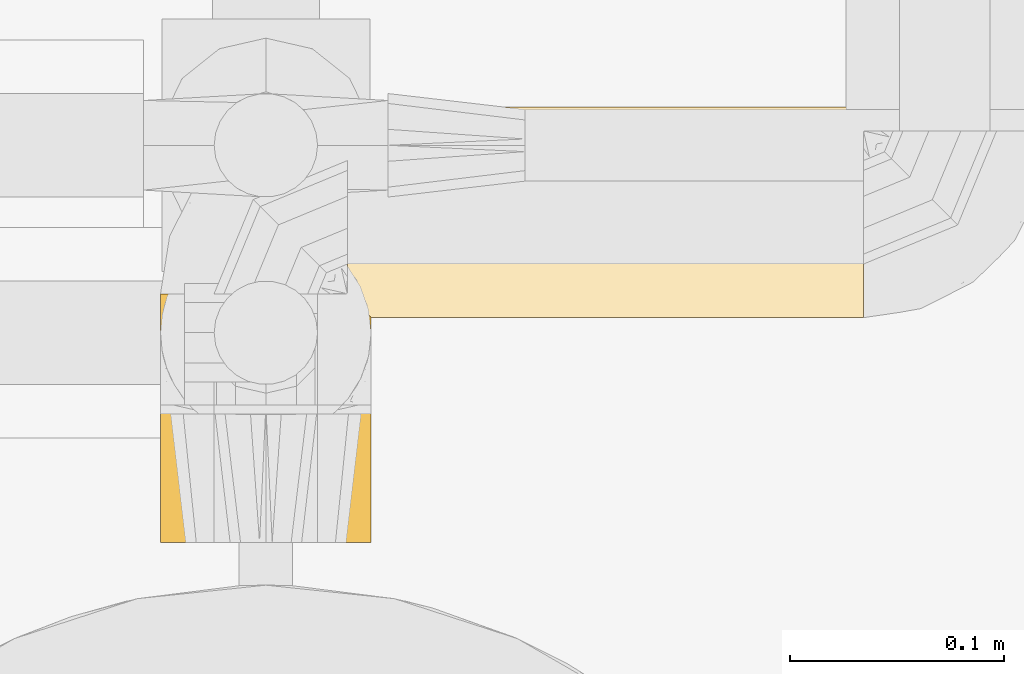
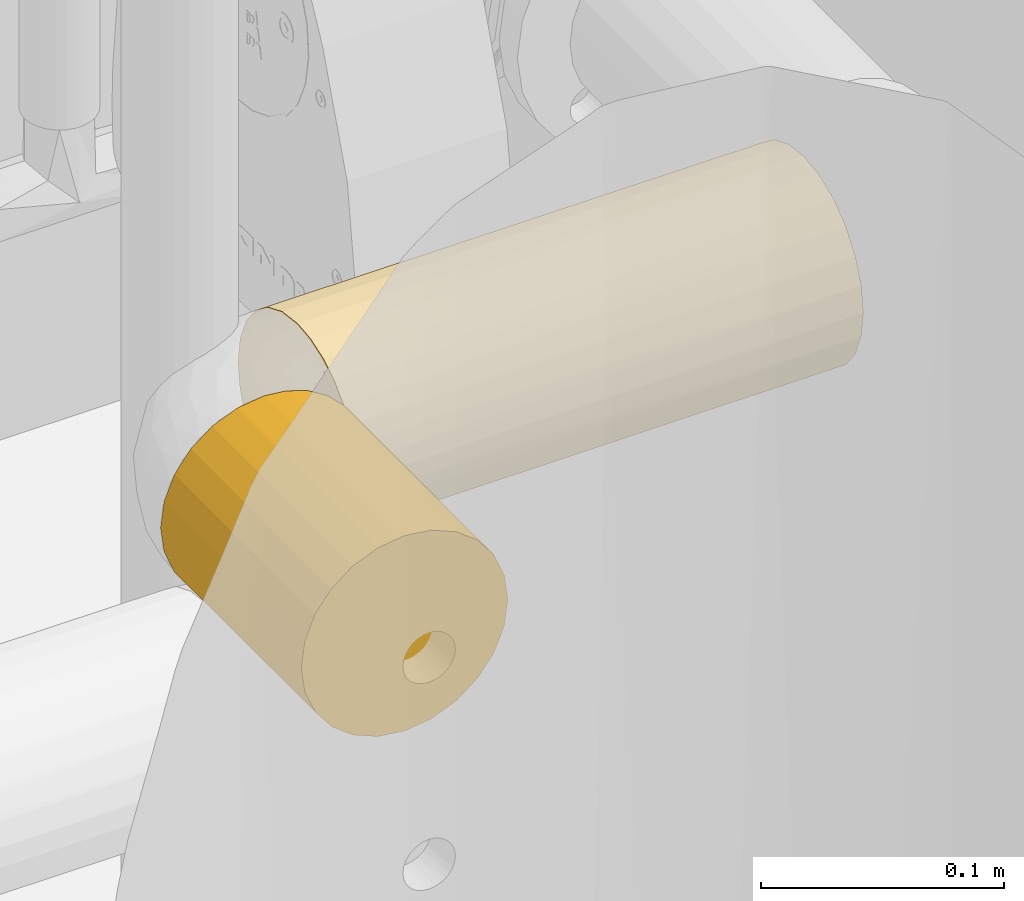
# One storey, part 41 of 94: 2 coverings.
"""IFC2X3 building model written with IfcOpenShell, lengths in millimetres."""

from ifc_helpers import new_model, entity, si_unit, converted_unit, derived_unit, direction, frame, origin, place, context, subcontext, project, spatial, faceted_brep, material, element, save


model = new_model("IFC2X3")

# Units and contexts
model_context = context("Model", 3, precision=0.01, world=origin(), true_north=direction((6.123031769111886e-17, 1.0)))
body_context = subcontext(model_context, "Body", "Model", "MODEL_VIEW")
ifc_project = project(units=[si_unit("LENGTHUNIT", "METRE", prefix="MILLI"), si_unit("AREAUNIT", "SQUARE_METRE"), si_unit("VOLUMEUNIT", "CUBIC_METRE"), converted_unit("PLANEANGLEUNIT", "DEGREE", entity("IfcRatioMeasure", 0.017453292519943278), si_unit("PLANEANGLEUNIT", "RADIAN"), dimensions=[0, 0, 0, 0, 0, 0, 0]), si_unit("MASSUNIT", "GRAM", prefix="KILO"), derived_unit("MASSDENSITYUNIT", [(si_unit("MASSUNIT", "GRAM", prefix="KILO"), 1), (si_unit("LENGTHUNIT", "METRE"), -3)]), derived_unit("IONCONCENTRATIONUNIT", [(si_unit("MASSUNIT", "GRAM", prefix="KILO"), 1), (si_unit("LENGTHUNIT", "METRE"), -3)]), derived_unit("MOMENTOFINERTIAUNIT", [(si_unit("LENGTHUNIT", "METRE"), 4)]), si_unit("TIMEUNIT", "SECOND"), si_unit("FREQUENCYUNIT", "HERTZ"), si_unit("THERMODYNAMICTEMPERATUREUNIT", "DEGREE_CELSIUS"), derived_unit("THERMALTRANSMITTANCEUNIT", [(si_unit("MASSUNIT", "GRAM", prefix="KILO"), 1), (si_unit("THERMODYNAMICTEMPERATUREUNIT", "KELVIN"), -1), (si_unit("TIMEUNIT", "SECOND"), -3)]), derived_unit("THERMALCONDUCTANCEUNIT", [(si_unit("MASSUNIT", "GRAM", prefix="KILO"), 1), (si_unit("THERMODYNAMICTEMPERATUREUNIT", "KELVIN"), -1), (si_unit("TIMEUNIT", "SECOND"), -3), (si_unit("LENGTHUNIT", "METRE"), 1)]), derived_unit("VOLUMETRICFLOWRATEUNIT", [(si_unit("LENGTHUNIT", "METRE"), 3), (si_unit("TIMEUNIT", "SECOND"), -1)]), derived_unit("MASSFLOWRATEUNIT", [(si_unit("MASSUNIT", "GRAM", prefix="KILO"), 1), (si_unit("TIMEUNIT", "SECOND"), -1)]), derived_unit("ROTATIONALFREQUENCYUNIT", [(si_unit("TIMEUNIT", "SECOND"), -1)]), si_unit("ELECTRICCURRENTUNIT", "AMPERE"), si_unit("ELECTRICVOLTAGEUNIT", "VOLT"), si_unit("POWERUNIT", "WATT"), si_unit("FORCEUNIT", "NEWTON", prefix="KILO"), si_unit("ILLUMINANCEUNIT", "LUX"), si_unit("LUMINOUSFLUXUNIT", "LUMEN"), si_unit("LUMINOUSINTENSITYUNIT", "CANDELA"), derived_unit("USERDEFINED", [(si_unit("MASSUNIT", "GRAM", prefix="KILO"), -1), (si_unit("LENGTHUNIT", "METRE"), -2), (si_unit("TIMEUNIT", "SECOND"), 3), (si_unit("LUMINOUSFLUXUNIT", "LUMEN"), 1)]), derived_unit("USERDEFINED", [(si_unit("MASSUNIT", "GRAM", prefix="KILO"), 1), (si_unit("TIMEUNIT", "SECOND"), -3), (si_unit("LENGTHUNIT", "METRE"), 3), (si_unit("ELECTRICCURRENTUNIT", "AMPERE"), -2)]), derived_unit("SOUNDPOWERUNIT", [(si_unit("MASSUNIT", "GRAM", prefix="KILO"), 1), (si_unit("TIMEUNIT", "SECOND"), -3), (si_unit("LENGTHUNIT", "METRE"), 2)]), derived_unit("SOUNDPRESSUREUNIT", [(si_unit("MASSUNIT", "GRAM", prefix="KILO"), 1), (si_unit("LENGTHUNIT", "METRE"), -1), (si_unit("TIMEUNIT", "SECOND"), -2)]), derived_unit("LINEARVELOCITYUNIT", [(si_unit("LENGTHUNIT", "METRE"), 1), (si_unit("TIMEUNIT", "SECOND"), -1)]), si_unit("PRESSUREUNIT", "PASCAL"), derived_unit("USERDEFINED", [(si_unit("MASSUNIT", "GRAM", prefix="KILO"), 1), (si_unit("LENGTHUNIT", "METRE"), -2), (si_unit("TIMEUNIT", "SECOND"), -2)]), derived_unit("LINEARFORCEUNIT", [(si_unit("MASSUNIT", "GRAM", prefix="KILO"), 1), (si_unit("TIMEUNIT", "SECOND"), -2)]), derived_unit("PLANARFORCEUNIT", [(si_unit("MASSUNIT", "GRAM", prefix="KILO"), 1), (si_unit("LENGTHUNIT", "METRE"), -1), (si_unit("TIMEUNIT", "SECOND"), -2)]), derived_unit("SPECIFICHEATCAPACITYUNIT", [(si_unit("THERMODYNAMICTEMPERATUREUNIT", "KELVIN"), -1), (si_unit("LENGTHUNIT", "METRE"), 2), (si_unit("TIMEUNIT", "SECOND"), -2)]), derived_unit("HEATINGVALUEUNIT", [(si_unit("LENGTHUNIT", "METRE"), 2), (si_unit("TIMEUNIT", "SECOND"), -2)]), derived_unit("VAPORPERMEABILITYUNIT", [(si_unit("LENGTHUNIT", "METRE"), -1), (si_unit("TIMEUNIT", "SECOND"), 1)]), derived_unit("DYNAMICVISCOSITYUNIT", [(si_unit("MASSUNIT", "GRAM", prefix="KILO"), 1), (si_unit("TIMEUNIT", "SECOND"), -1), (si_unit("LENGTHUNIT", "METRE"), -1)]), derived_unit("THERMALEXPANSIONCOEFFICIENTUNIT", [(si_unit("THERMODYNAMICTEMPERATUREUNIT", "KELVIN"), -1)]), derived_unit("MODULUSOFELASTICITYUNIT", [(si_unit("MASSUNIT", "GRAM", prefix="KILO"), 1), (si_unit("LENGTHUNIT", "METRE"), -1), (si_unit("TIMEUNIT", "SECOND"), -2)]), derived_unit("ISOTHERMALMOISTURECAPACITYUNIT", [(si_unit("LENGTHUNIT", "METRE"), 3), (si_unit("MASSUNIT", "GRAM", prefix="KILO"), -1)]), derived_unit("MOISTUREDIFFUSIVITYUNIT", [(si_unit("TIMEUNIT", "SECOND"), -1), (si_unit("LENGTHUNIT", "METRE"), 2)])], contexts=[model_context])

# Site, building, storey
site_placement = place(None, origin())
site = spatial("IfcSite", under=ifc_project, at=site_placement, Name="Default", CompositionType="ELEMENT")
building_placement = place(site_placement, origin())
building = spatial("IfcBuilding", under=site, at=building_placement, CompositionType="ELEMENT")
storey_placement = place(building_placement, origin())
storey = spatial("IfcBuildingStorey", under=building, at=storey_placement, Name="Niveau 0", CompositionType="ELEMENT", Elevation=0.0)

# Coverings
ifc_material = material(Name="Isolation - Laine minérale")
covering_1_placement = place(storey_placement, frame((-6247.833151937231, 9280.928553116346, 528.1439375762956)))
element("IfcCovering", 1, at=covering_1_placement, inside=storey, material=ifc_material, Name="Isolation des canalisations:Laine minérale", ObjectType="Isolation des canalisations:Laine minérale", PredefinedType="INSULATION", context=body_context, shape_type="Brep", body=[
    faceted_brep([(1.602675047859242, 29.695093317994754, 6.323821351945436), (1.6021236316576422, 20.47313283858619, 12.013962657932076), (1.6013862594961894, 12.723318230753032, 19.58672611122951), (1.5952722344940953, 12.727150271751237, 81.86849398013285), (1.5945229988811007, 20.47670737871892, 89.43937450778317), (1.5939573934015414, 29.69782329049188, 95.12801555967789), (1.5936029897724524, 39.941210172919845, 98.65710974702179), (1.593476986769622, 50.72526358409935, 99.85527176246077), (1.5936314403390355, 63.441043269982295, 98.18120761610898), (1.5941040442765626, 75.29026358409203, 93.27309988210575), (1.5948625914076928, 85.46541974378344, 85.46542799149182), (1.595855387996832, 93.27309167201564, 75.29027188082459), (1.5970147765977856, 98.18119942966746, 63.441051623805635), (1.5982617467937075, 99.85526358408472, 50.72527199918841), (1.5995113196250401, 98.18119942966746, 38.009492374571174), (1.6006783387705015, 93.27309167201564, 26.16027211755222), (1.6016832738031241, 85.46541974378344, 15.985116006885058), (1.602457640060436, 75.29026358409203, 8.177444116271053), (1.6029486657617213, 63.441043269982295, 3.2693363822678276), (1.6031228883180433, 50.72526358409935, 1.5952722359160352), (1.6030136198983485, 39.93974683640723, 2.7937635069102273), (242.4274744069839, 3.269514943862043, 38.03313375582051), (242.42863379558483, 8.177622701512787, 26.18391349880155), (242.42962659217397, 15.985294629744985, 16.008757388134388), (242.4303851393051, 26.160450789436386, 8.201085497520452), (242.43085774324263, 38.009671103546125, 3.292977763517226), (242.43101219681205, 50.72545078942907, 1.6189136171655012), (242.43083797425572, 63.44123047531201, 3.292977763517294), (242.43034694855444, 75.29045078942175, 8.20108549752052), (242.4295725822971, 85.46560694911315, 16.008757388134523), (242.4285676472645, 93.27327887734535, 26.183913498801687), (242.42740062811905, 98.18138663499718, 38.03313375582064), (242.4261510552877, 99.85545078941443, 50.74891338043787), (242.42490408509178, 98.18138663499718, 63.4646930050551), (242.42374469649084, 93.27327887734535, 75.31391326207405), (242.4227518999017, 85.46560694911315, 85.48906937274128), (242.42199335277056, 75.29045078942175, 93.29674126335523), (242.42152074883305, 63.44123047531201, 98.20484899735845), (242.42136629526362, 50.72545078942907, 99.87891314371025), (242.42154051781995, 38.009671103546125, 98.20484899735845), (242.42203154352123, 26.160450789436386, 93.29674126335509), (242.42280590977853, 15.985294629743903, 85.48906937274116), (242.42381084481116, 8.177622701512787, 75.31391326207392), (242.42497786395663, 3.2695149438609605, 63.46469300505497), (242.42622743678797, 1.5954507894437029, 50.748913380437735), (9.863350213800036, 4.4608534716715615, 34.192461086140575), (12.006945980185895, 2.3169682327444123, 42.33623665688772), (12.728337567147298, 1.5952722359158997, 50.726364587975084), (6.360527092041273, 7.9639426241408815, 26.534294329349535), (12.00607298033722, 2.3172263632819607, 59.1178400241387), (9.8611211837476, 4.461870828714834, 67.26255189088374), (6.35652137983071, 7.966175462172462, 74.92113064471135)], [[[0, 1, 2, 3, 4, 5, 6, 7, 8, 9, 10, 11, 12, 13, 14, 15, 16, 17, 18, 19, 20]], [[21, 22, 23, 24, 25, 26, 27, 28, 29, 30, 31, 32, 33, 34, 35, 36, 37, 38, 39, 40, 41, 42, 43, 44]], [[14, 13, 32, 31]], [[15, 14, 31, 30]], [[30, 29, 16, 15]], [[18, 17, 28, 27]], [[19, 18, 27, 26]], [[29, 28, 17, 16]], [[20, 26, 25]], [[0, 25, 24]], [[1, 24, 23]], [[19, 26, 20]], [[20, 25, 0]], [[24, 1, 0]], [[23, 2, 1]], [[45, 22, 21]], [[21, 44, 46]], [[47, 46, 44]], [[48, 2, 22]], [[46, 45, 21]], [[48, 22, 45]], [[22, 2, 23]], [[49, 47, 44]], [[49, 44, 43]], [[50, 43, 42]], [[50, 49, 43]], [[3, 51, 42]], [[50, 42, 51]], [[42, 41, 3]], [[4, 41, 40]], [[5, 40, 39]], [[6, 39, 38]], [[4, 40, 5]], [[5, 39, 6]], [[38, 7, 6]], [[41, 4, 3]], [[8, 7, 38, 37]], [[9, 8, 37, 36]], [[36, 35, 10, 9]], [[12, 11, 34, 33]], [[13, 12, 33, 32]], [[35, 34, 11, 10]], [[2, 48, 45, 46, 47, 49, 50, 51, 3]]]),
])
covering_2_placement = place(storey_placement, frame((-6334.960124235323, 9177.684423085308, 528.1437673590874)))
element("IfcCovering", 2, at=covering_2_placement, inside=storey, material=ifc_material, Name="Isolation des canalisations:Laine minérale", ObjectType="Isolation des canalisations:Laine minérale", PredefinedType="INSULATION", context=body_context, shape_type="Brep", body=[
    faceted_brep([(38.009884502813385, 0.0, 3.2702967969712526), (50.7256641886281, 2.9113010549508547e-05, 1.5962326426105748), (63.441443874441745, 8.595382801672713e-05, 3.2702967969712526), (75.2906641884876, 0.0001666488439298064, 8.17840455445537), (85.46582034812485, 0.00026569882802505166, 15.986076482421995), (93.27349227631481, 0.00037635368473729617, 26.1612326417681), (98.1816000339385, 0.0004910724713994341, 38.010452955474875), (99.85566418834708, 0.0006020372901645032, 50.72623264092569), (98.18160003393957, 0.0007016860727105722, 63.44201232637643), (93.27349227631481, 0.0007832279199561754, 75.29123264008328), (85.46582034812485, 0.0008411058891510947, 85.46638879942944), (75.2906641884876, 0.0008713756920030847, 93.27406072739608), (63.441443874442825, 0.0008719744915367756, 98.18216848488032), (50.7256641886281, 0.000842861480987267, 99.856232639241), (38.009884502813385, 0.0007860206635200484, 98.18216848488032), (26.160664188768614, 0.0007053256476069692, 93.2740607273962), (15.985508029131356, 0.000606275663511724, 85.46638879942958), (8.17783610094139, 0.0004956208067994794, 75.29123264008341), (3.2697283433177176, 0.0003809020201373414, 63.442012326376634), (1.595664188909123, 0.0002699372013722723, 50.72623264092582), (3.2697283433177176, 0.00017028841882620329, 38.01045295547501), (8.17783610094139, 8.874657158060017e-05, 26.161232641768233), (15.985508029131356, 3.086860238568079e-05, 15.986076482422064), (26.160664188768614, 5.98799533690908e-07, 8.178404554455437), (38.00949254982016, 115.96895762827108, 3.2693363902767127), (26.16027223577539, 115.96895822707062, 8.177444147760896), (15.985116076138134, 115.96898849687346, 15.985116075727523), (8.177444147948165, 115.96904637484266, 26.16027223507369), (3.2693363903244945, 115.9691279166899, 38.00949254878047), (1.5952722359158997, 115.96922756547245, 50.725272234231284), (3.2693363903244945, 115.96933853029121, 63.44105191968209), (8.177444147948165, 115.96945324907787, 75.29027223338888), (15.985116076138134, 115.96956390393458, 85.46542839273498), (26.16027223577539, 115.96966295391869, 93.27310032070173), (38.00949254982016, 115.9697436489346, 98.18120807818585), (50.72527223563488, 115.96980048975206, 99.85527223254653), (61.509462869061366, 115.96982701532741, 98.65707933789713), (71.75296852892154, 115.96983240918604, 95.12789477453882), (80.97416364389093, 115.96981646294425, 89.43911302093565), (88.7237449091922, 115.96977995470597, 81.86805589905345), (88.72654267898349, 115.96926416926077, 19.58590254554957), (80.97677340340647, 115.96917526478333, 12.013470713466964), (71.7549616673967, 115.96909697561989, 6.323593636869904), (61.51053123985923, 115.9690331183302, 2.793705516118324), (50.72527223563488, 115.96898674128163, 1.5952722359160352), (93.48621973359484, 111.20935235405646, 26.53317150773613), (96.98953752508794, 107.70576853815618, 34.19121712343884), (99.13356539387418, 105.56145119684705, 42.33503905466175), (99.85530985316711, 104.83940232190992, 50.72536441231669), (99.13337693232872, 105.56102478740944, 59.116765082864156), (96.98879475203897, 107.70529963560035, 67.2615424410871), (93.48458953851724, 111.20920967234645, 74.92033304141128)], [[[0, 1, 2, 3, 4, 5, 6, 7, 8, 9, 10, 11, 12, 13, 14, 15, 16, 17, 18, 19, 20, 21, 22, 23]], [[24, 25, 26, 27, 28, 29, 30, 31, 32, 33, 34, 35, 36, 37, 38, 39, 40, 41, 42, 43, 44]], [[28, 27, 21, 20]], [[29, 28, 20, 19]], [[27, 26, 22, 21]], [[0, 23, 25, 24]], [[1, 0, 24, 44]], [[26, 25, 23, 22]], [[1, 44, 43]], [[2, 43, 42]], [[3, 42, 41]], [[1, 43, 2]], [[2, 42, 3]], [[41, 4, 3]], [[41, 40, 4]], [[40, 45, 5]], [[46, 47, 6]], [[45, 46, 5]], [[5, 46, 6]], [[7, 6, 47]], [[48, 7, 47]], [[40, 5, 4]], [[49, 50, 8]], [[51, 39, 9]], [[50, 51, 9]], [[48, 49, 7]], [[7, 49, 8]], [[50, 9, 8]], [[39, 10, 9]], [[11, 38, 37]], [[12, 37, 36]], [[13, 36, 35]], [[10, 38, 11]], [[11, 37, 12]], [[36, 13, 12]], [[38, 10, 39]], [[14, 13, 35, 34]], [[15, 14, 34, 33]], [[33, 32, 16, 15]], [[18, 17, 31, 30]], [[19, 18, 30, 29]], [[32, 31, 17, 16]], [[39, 51, 50, 49, 48, 47, 46, 45, 40]]]),
])

save(model, "model.ifc")
